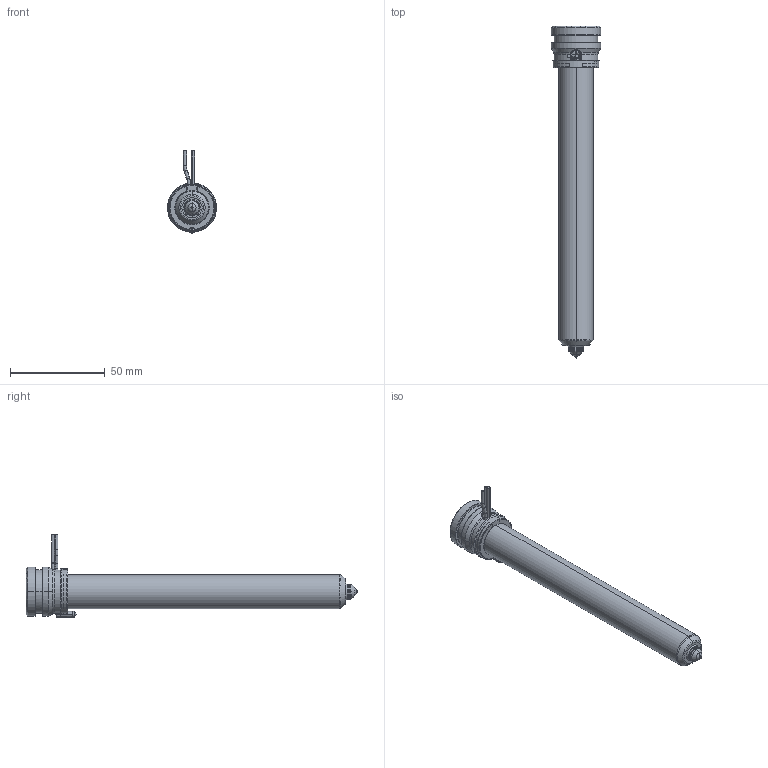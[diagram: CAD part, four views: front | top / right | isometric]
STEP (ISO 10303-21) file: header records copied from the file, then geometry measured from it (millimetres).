
FILE_DESCRIPTION((''),'2;1');
FILE_NAME('MPN-08-24-VX8-156-A','2026-02-05T12:00:29',('UPTIO'),('Thermoplay S.p.A.'),'CREO PARAMETRIC BY PTC INC, 2023494','CREO PARAMETRIC BY PTC INC, 2023494','');
FILE_SCHEMA(('CONFIG_CONTROL_DESIGN','SHAPE_APPEARANCE_LAYERS_GROUPS'));
Length unit declared in the file: millimetre
Products named in the file (1): MPN-08-24-VX8-156-A
Bounding box: 26 x 175.5 x 43.5 mm (x, y, z)
Volume: 32867.9 mm3; surface area: 42891.6 mm2
Topology: 2 solids, 3 shells, 545 faces, 1438 edges, 891 vertices
Faces by surface type: cylinder 180, plane 143, bspline 82, cone 62, torus 62, sphere 10, extrusion 6
Entity records: 29289 total; most frequent: CARTESIAN_POINT 13050, ORIENTED_EDGE 2860, DIRECTION 2578, EDGE_CURVE 1430, AXIS2_PLACEMENT_3D 1007, VERTEX_POINT 891, EDGE_LOOP 573, VECTOR 564
